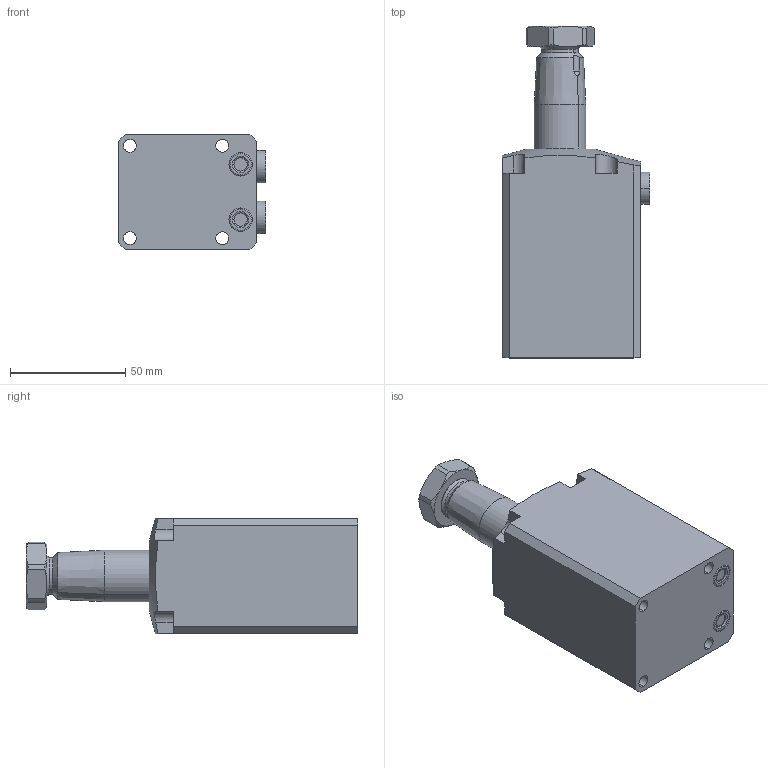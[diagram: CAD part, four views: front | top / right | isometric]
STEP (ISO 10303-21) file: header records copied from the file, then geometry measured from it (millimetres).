
FILE_DESCRIPTION(/* description */ (''),/* implementation_level */ '2;1');
FILE_NAME(/* name */ 'BRC04-LN45.stp',/* time_stamp */ '2025-01-04T16:21:55+08:00',/* author */ (''),/* organization */ (''),/* preprocessor_version */ 'ST-DEVELOPER v16.7',/* originating_system */ 'SIEMENS PLM Software NX 12.0',/* authorisation */ '');
FILE_SCHEMA (('AUTOMOTIVE_DESIGN { 1 0 10303 214 3 1 1 1 }'));
Length unit declared in the file: millimetre
Products named in the file (5): BRC04-LN45-04; BRC04-LN45-03; BRC04-LN45-02; BRC04-LN45-01; BTU04-LN45_step
Assembly tree (5 placements, depth 2):
  BTU04-LN45_step
    BRC04-LN45-01
    BRC04-LN45-02
    BRC04-LN45-03  x2
    BRC04-LN45-04
Bounding box: 63.8 x 143.8 x 50 mm (x, y, z)
Volume: 269509 mm3; surface area: 40066.3 mm2
Topology: 7 solids, 7 shells, 176 faces, 401 edges, 248 vertices
Faces by surface type: plane 68, cylinder 57, cone 34, torus 16, sphere 1
Full cylindrical faces by diameter (mm): 8.5 x2
Entity records: 4666 total; most frequent: CARTESIAN_POINT 963, DIRECTION 778, ORIENTED_EDGE 712, EDGE_CURVE 356, AXIS2_PLACEMENT_3D 313, VERTEX_POINT 222, EDGE_LOOP 180, ADVANCED_FACE 156
